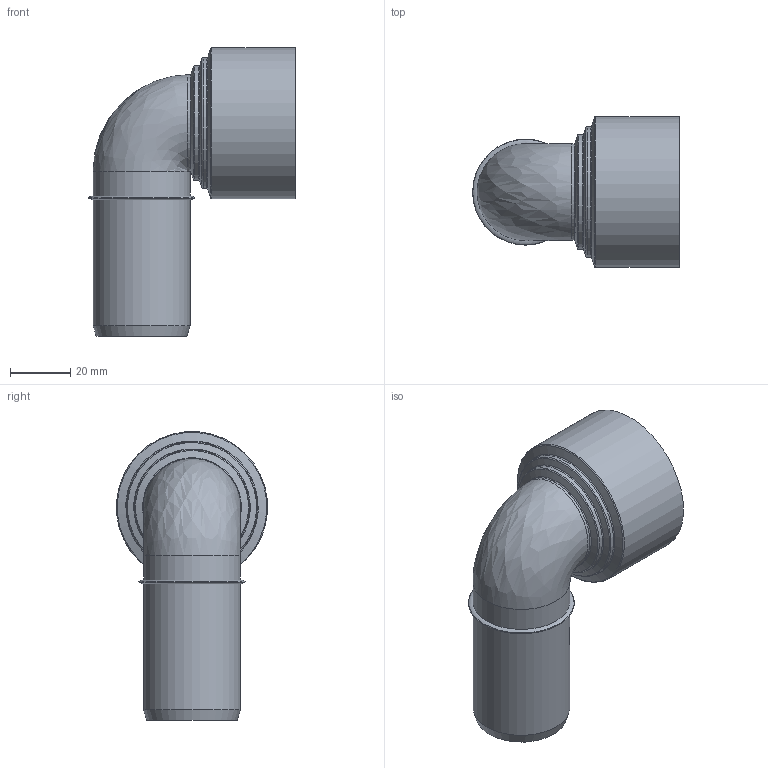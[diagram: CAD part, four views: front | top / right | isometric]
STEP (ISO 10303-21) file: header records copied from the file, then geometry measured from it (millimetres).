
FILE_DESCRIPTION(/* description */ (''),/* implementation_level */ '2;1');
FILE_NAME(/* name */ 'Z:\Geberit\Export\NewStep\390083.stp',/* time_stamp */ '2014-04-02T08:08:27+02:00',/* author */ ('ML'),/* organization */ (''),/* preprocessor_version */ 'ST-DEVELOPER v15.2',/* originating_system */ 'Autodesk Inventor 2014',/* authorisation */ '');
FILE_SCHEMA (('AUTOMOTIVE_DESIGN { 1 0 10303 214 3 1 1 }'));
Length unit declared in the file: millimetre
Products named in the file (3): 861630; 861629Muffe; 390083
Bounding box: 68.58 x 50.01 x 95.68 mm (x, y, z)
Volume: 27682.4 mm3; surface area: 27968.6 mm2
Topology: 2 solids, 2 shells, 32 faces, 63 edges, 33 vertices
Faces by surface type: cylinder 11, torus 11, cone 5, plane 4, bspline 1
Full cylindrical faces by diameter (mm): 28.15 x3, 32.15 x4, 38.062 x1, 43.358 x1, 46.15 x1, 50.15 x1
Entity records: 816 total; most frequent: CARTESIAN_POINT 180, DIRECTION 136, AXIS2_PLACEMENT_3D 68, ORIENTED_EDGE 64, EDGE_LOOP 63, FACE_BOUND 34, STYLED_ITEM 34, CIRCLE 32
